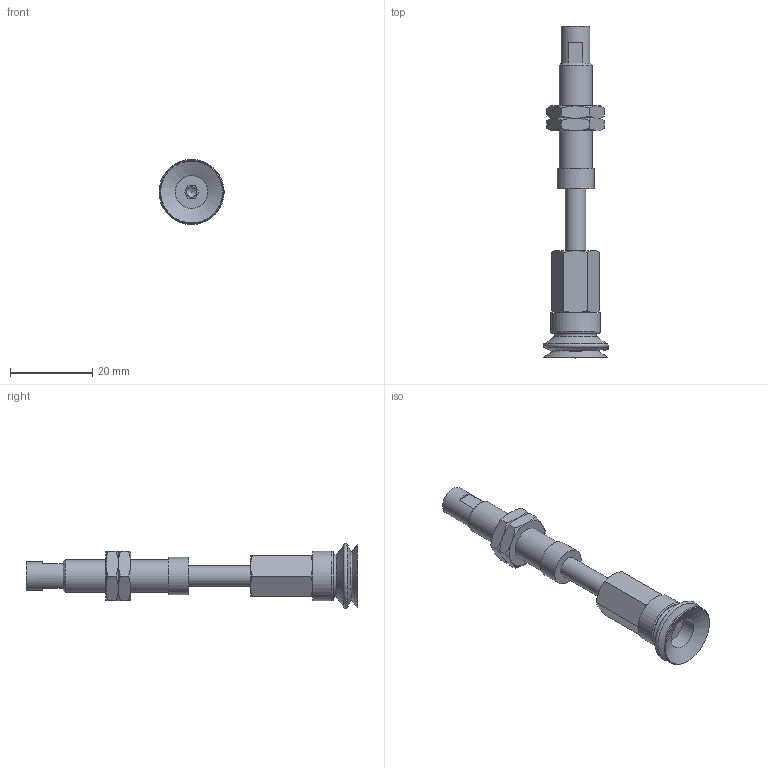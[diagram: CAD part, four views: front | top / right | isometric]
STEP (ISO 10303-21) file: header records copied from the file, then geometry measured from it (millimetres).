
FILE_DESCRIPTION(('STEP AP203'),'1');
FILE_NAME('.stp','2025-08-27T07:36:58',(' '),(' '),'Spatial InterOp 3D',' ',' ');
FILE_SCHEMA(('CONFIG_CONTROL_DESIGN'));
Length unit declared in the file: millimetre
Products named in the file (7): BNABPJTS-15-15-※; ADAPTER; NAPCTS-10-15-MBODY; Adapter-15-NAPJ; NUT-NAPJ-15-15-s; NAPJTS-15-15-FBODY; BPJG-15-※
Assembly tree (7 placements, depth 2):
  BNABPJTS-15-15-※
    ADAPTER
    NAPCTS-10-15-MBODY
    Adapter-15-NAPJ
    NUT-NAPJ-15-15-s  x2
    NAPJTS-15-15-FBODY
    BPJG-15-※
Bounding box: 15.99 x 80.5 x 15.78 mm (x, y, z)
Volume: 4863.5 mm3; surface area: 5276.9 mm2
Topology: 7 solids, 7 shells, 137 faces, 290 edges, 171 vertices
Faces by surface type: cone 53, plane 50, cylinder 15, torus 9, bspline 6, sphere 4
Full cylindrical faces by diameter (mm): 2.5 x1, 4.134 x2, 4.6 x1, 5 x3, 7 x1, 7.188 x2, 7.9 x1, 8 x2, 9 x1, 12 x1
Entity records: 3606 total; most frequent: CARTESIAN_POINT 1060, DIRECTION 466, ORIENTED_EDGE 394, AXIS2_PLACEMENT_3D 209, EDGE_CURVE 197, EDGE_LOOP 161, FACE_OUTER_BOUND 135, VERTEX_POINT 135
